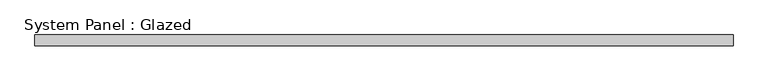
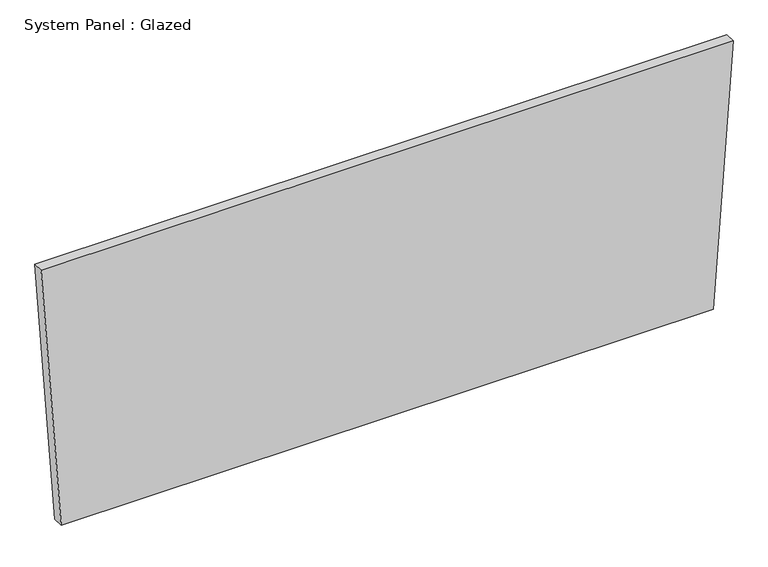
"""IFC4 building model written with IfcOpenShell, lengths in millimetres: plate geometry, System Panel : Glazed."""

from ifc_helpers import new_model, si_unit, frame, origin, place, context, project, spatial, polyline, outline, extrude, source, transform, mapped, element, save


def system_panel_glazed_33f22fd7(model_context):
    return source(origin(), model_context, "Body", "SweptSolid", [
        extrude(outline(polyline([(0.0, -782.5271076), (0.0006763, 782.5271567), (664.042016, 830.7562743), (664.042016, -830.7562743), (0.0, -782.5271076)])), frame((0.0, 19.05, 0.0), z_axis=(0.0, 1.0, 0.0), x_axis=(0.0, 0.0, 1.0)), (0.0, 0.0, 1.0), 25.4),
    ])


if __name__ == "__main__":
    model = new_model("IFC4")
    model_context = context("Model", 3, world=origin())
    ifc_project = project(units=[si_unit("LENGTHUNIT", "METRE", prefix="MILLI")], contexts=[model_context])
    site = spatial("IfcSite", under=ifc_project)
    building = spatial("IfcBuilding", under=site)
    placement = place(None, origin())
    system_panel_glazed_shape = system_panel_glazed_33f22fd7(model_context)
    element("IfcPlate", 1, ObjectType="System Panel : Glazed", at=placement, inside=building, context=model_context, shape_type="MappedRepresentation", body=[
        mapped(system_panel_glazed_shape, transform((0.0, 0.0, 0.0), x_axis=(1.0, 0.0, 0.0), y_axis=(0.0, 1.0, 0.0), z_axis=(0.0, 0.0, 1.0))),
    ])
    save(model, "model.ifc")
